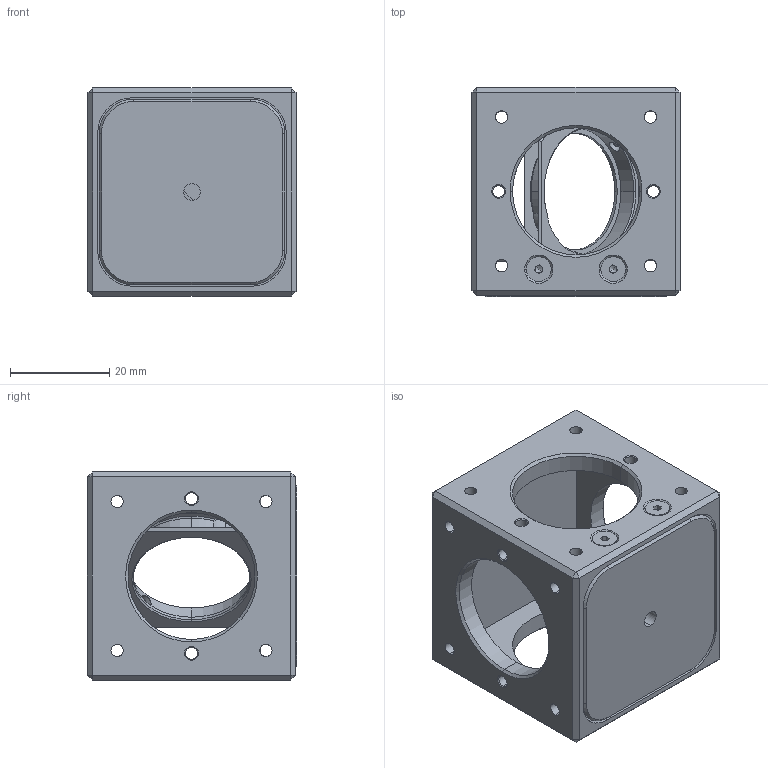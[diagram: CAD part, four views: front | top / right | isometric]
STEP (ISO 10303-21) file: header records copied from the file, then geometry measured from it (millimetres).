
FILE_DESCRIPTION (( 'STEP AP203' ), '1' );
FILE_NAME ('CSC1-3C.STEP', '2024-03-28T03:19:28', ( '' ), ( '' ), 'SwSTEP 2.0', 'SolidWorks 2021', '' );
FILE_SCHEMA (( 'CONFIG_CONTROL_DESIGN' ));
Length unit declared in the file: millimetre
Products named in the file (1): CSC1-3C
Bounding box: 42 x 42.2 x 42 mm (x, y, z)
Surface area: 16028.1 mm2 (no closed solid volume)
Topology: 0 solids, 16 shells, 293 faces, 1283 edges, 954 vertices
Faces by surface type: plane 139, cylinder 88, cone 49, bspline 13, torus 4
Entity records: 15642 total; most frequent: CARTESIAN_POINT 5506, DIRECTION 1970, ORIENTED_EDGE 1860, EDGE_CURVE 1275, VERTEX_POINT 954, VECTOR 822, LINE 822, AXIS2_PLACEMENT_3D 574
